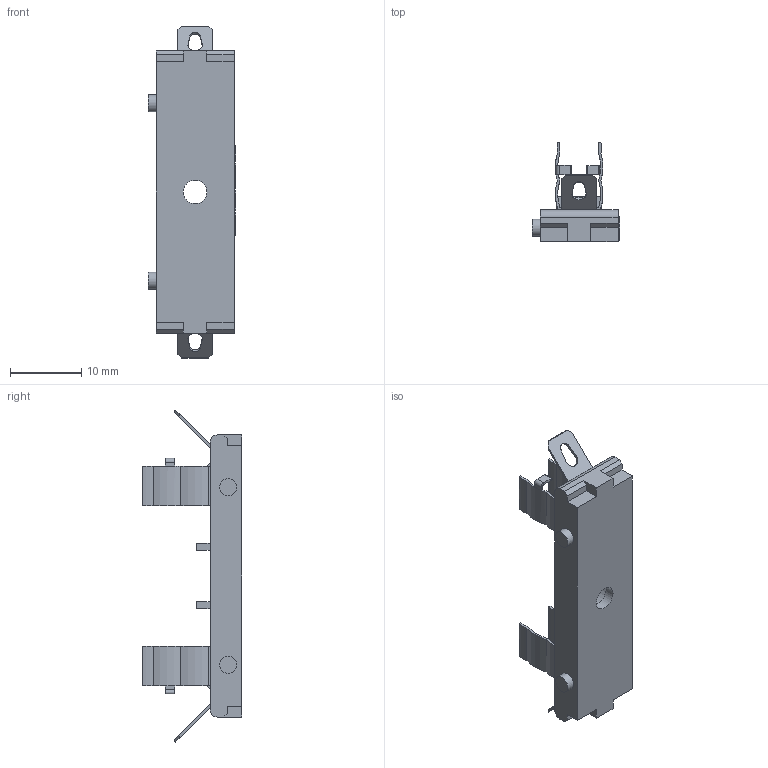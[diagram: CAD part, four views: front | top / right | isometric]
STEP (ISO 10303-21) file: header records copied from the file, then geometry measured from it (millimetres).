
FILE_DESCRIPTION(/* description */ (''),/* implementation_level */ '2;1');
FILE_NAME(/* name */ 'C:\Users\Hani\Desktop\work\BLC-20A\BLC-20A.stp',/* time_stamp */ '2021-07-10T09:56:16-07:00',/* author */ ('Hani'),/* organization */ (''),/* preprocessor_version */ 'ST-DEVELOPER v17',/* originating_system */ 'Autodesk Inventor 2019',/* authorisation */ '');
FILE_SCHEMA (('AUTOMOTIVE_DESIGN { 1 0 10303 214 3 1 1 }'));
Length unit declared in the file: inch
Products named in the file (3): BLC-20C; BLC-20C_1; terminal
Assembly tree (3 placements, depth 2):
  BLC-20C
    BLC-20C_1
    terminal  x2
Bounding box: 12.32 x 13.97 x 46.62 mm (x, y, z)
Volume: 1891 mm3; surface area: 2324.9 mm2
Topology: 3 solids, 3 shells, 325 faces, 876 edges, 578 vertices
Faces by surface type: plane 198, bspline 67, cylinder 60
Full cylindrical faces by diameter (mm): 2.413 x2, 2.54 x2, 3.302 x1, 5.842 x1
Entity records: 8685 total; most frequent: CARTESIAN_POINT 2485, ORIENTED_EDGE 1382, DIRECTION 1025, EDGE_CURVE 691, LINE 483, VECTOR 483, VERTEX_POINT 458, EDGE_LOOP 283
